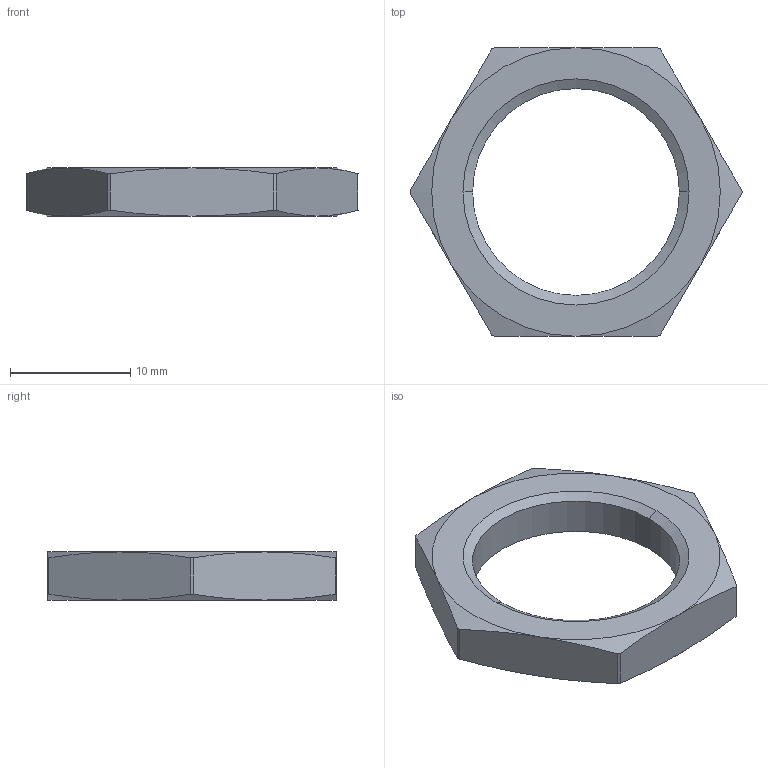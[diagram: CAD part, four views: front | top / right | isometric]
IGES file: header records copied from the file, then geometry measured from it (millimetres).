
Global section: file name: No Iges File Name specified; native system: Autodesk Inventor 2009; preprocessor: AutoDesk Inventor Iges Exporter R2009; author: Oliver Liedtke; date: 20100126.125620; units: millimetre
Bounding box: 27.6 x 24 x 4 mm (x, y, z)
Volume: 1031.3 mm3; surface area: 1020 mm2
Topology: 1 solids, 1 shells, 32 faces, 74 edges, 44 vertices
Faces by surface type: cone 12, plane 8, revolution 6, cylinder 6
